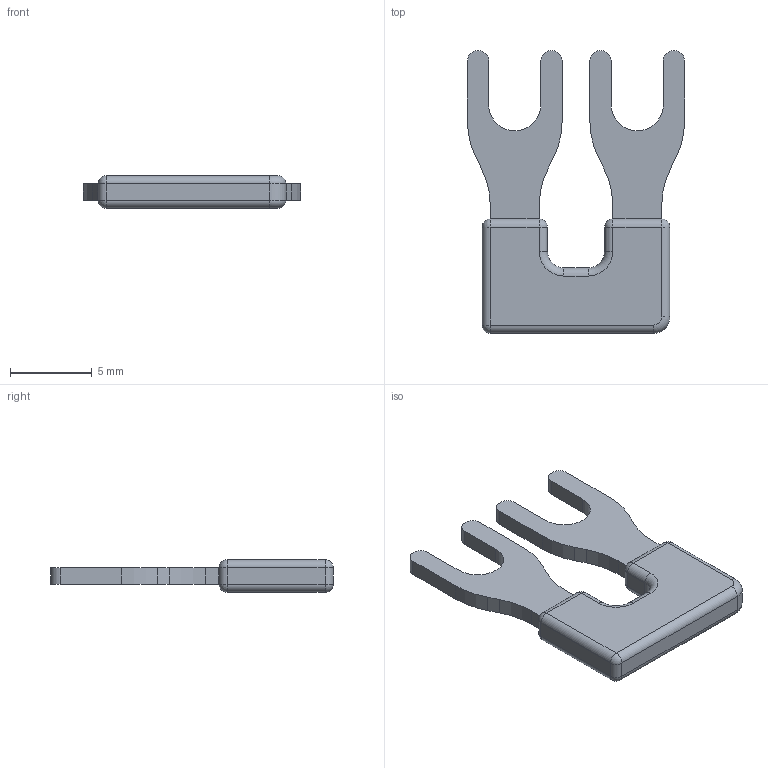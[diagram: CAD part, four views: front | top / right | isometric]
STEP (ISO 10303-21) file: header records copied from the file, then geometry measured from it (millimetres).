
FILE_DESCRIPTION(('Creo Elements/Direct Modeling STEP Export'),'2;1');
FILE_NAME('H06-0038-CL911_JB-SB152.stp','2012-02-15T14:41:46',(''),(''),'Creo Elements/Direct Modeling STEP processor for AP214 (Solid Model)','Creo Elements/Direct Modeling 18.0B 02-Dec-2011 (C) Parametric Technology GmbH','');
FILE_SCHEMA(('AUTOMOTIVE_DESIGN { 1 0 10303 214 1 1 1 1 }'));
Length unit declared in the file: millimetre
Products named in the file (1): JB-SB152
Bounding box: 13.3 x 17.3 x 2 mm (x, y, z)
Volume: 206.3 mm3; surface area: 407.4 mm2
Topology: 1 solids, 1 shells, 90 faces, 224 edges, 126 vertices
Faces by surface type: cylinder 42, plane 32, sphere 10, torus 6
Entity records: 2916 total; most frequent: DIRECTION 482, CARTESIAN_POINT 429, ORIENTED_EDGE 428, EDGE_CURVE 214, AXIS2_PLACEMENT_3D 179, VERTEX_POINT 126, VECTOR 124, LINE 124
